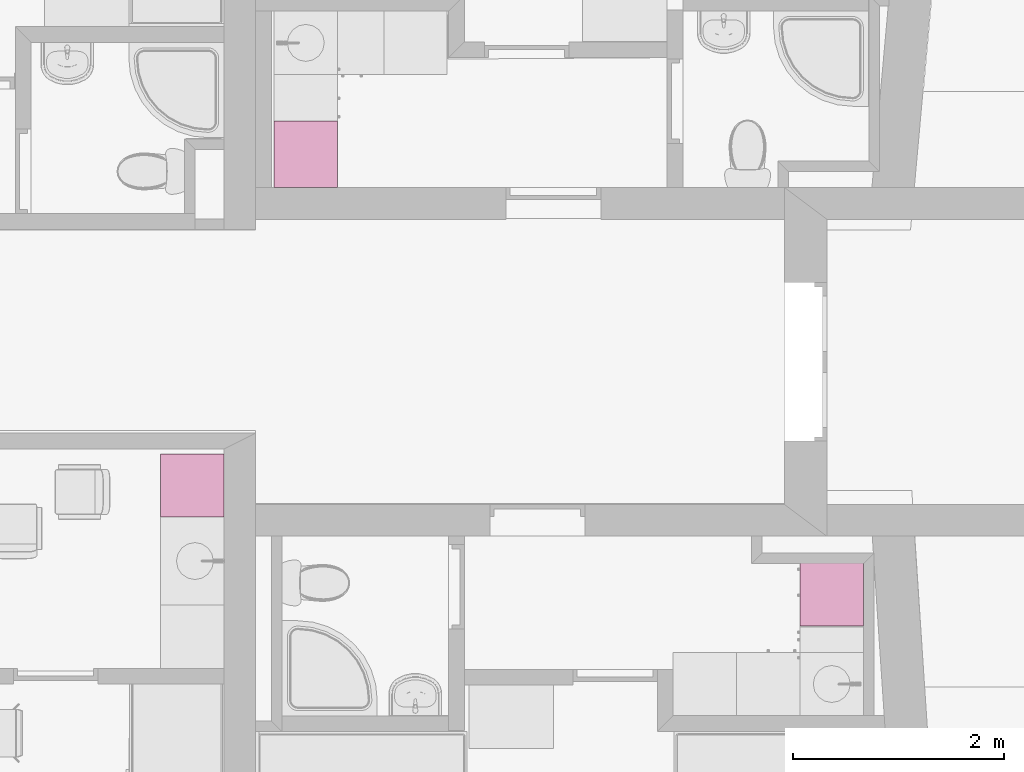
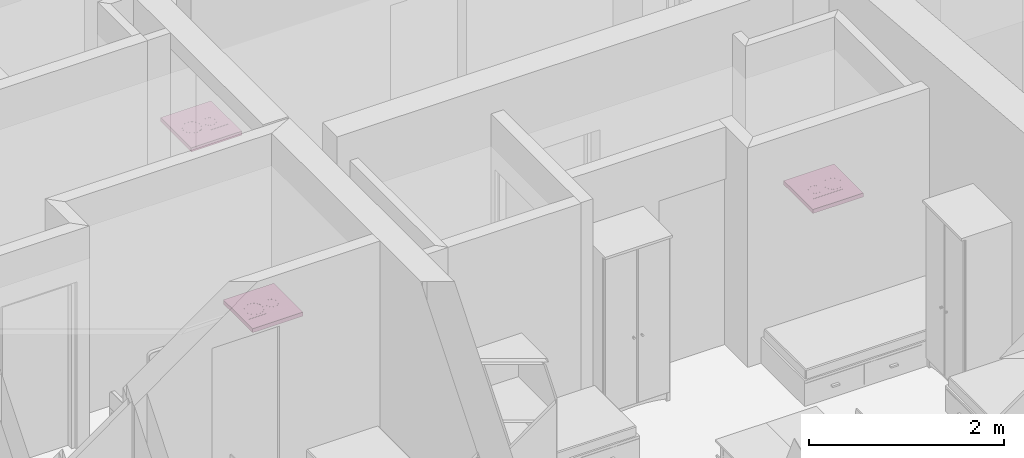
# One storey, part 168 of 172: 3 furnishings.
"""IFC2X3 building model written with IfcOpenShell, lengths in millimetres."""

from ifc_helpers import new_model, entity, si_unit, converted_unit, money_unit, direction, frame, origin_with_axes, place, context, subcontext, project, spatial, faceted_brep, source, transform, mapped, material, material_list, type_object, element, save


model = new_model("IFC2X3")

# Units and contexts
model_context = context("Model", 3, precision=1e-05, world=origin_with_axes(), true_north=direction((0.0, 1.0)))
body_context = subcontext(model_context, "Body", "Model", "MODEL_VIEW")
ifc_project = project(units=[si_unit("LENGTHUNIT", "METRE", prefix="MILLI"), si_unit("AREAUNIT", "SQUARE_METRE"), si_unit("VOLUMEUNIT", "CUBIC_METRE"), converted_unit("PLANEANGLEUNIT", "DEGREE", entity("IfcPlaneAngleMeasure", 0.0174532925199), si_unit("PLANEANGLEUNIT", "RADIAN"), dimensions=[0, 0, 0, 0, 0, 0, 0]), si_unit("SOLIDANGLEUNIT", "STERADIAN"), money_unit("USD"), converted_unit("TIMEUNIT", "Year", entity("IfcTimeMeasure", 31556926.0), si_unit("TIMEUNIT", "SECOND"), dimensions=[0, 0, 0, 0, 0, 0, 0]), si_unit("MASSUNIT", "GRAM"), si_unit("THERMODYNAMICTEMPERATUREUNIT", "DEGREE_CELSIUS"), si_unit("LUMINOUSINTENSITYUNIT", "LUMEN")], contexts=[model_context])

# Site, building, storey
site_placement = place(None, origin_with_axes())
site = spatial("IfcSite", under=ifc_project, at=site_placement, Name="Site", CompositionType="ELEMENT")
building_placement = place(site_placement, origin_with_axes())
building = spatial("IfcBuilding", under=site, at=building_placement, Name="Building", CompositionType="ELEMENT")
storey_placement = place(building_placement, frame((0.0, 0.0, 3200.0), z_axis=(0.0, 0.0, 1.0), x_axis=(1.0, 0.0, 0.0)))
storey = spatial("IfcBuildingStorey", under=building, at=storey_placement, Name="3KORRUS", CompositionType="ELEMENT", Elevation=3200.0)

# Furnishings
ifc_material = material(Name="Background")
ifc_material_list = material_list([ifc_material])
furnishing_element_type = type_object("IfcFurnishingElementType", Name="Built-in Cooktops 19")
shared_shape_1 = source(origin_with_axes(), body_context, "Body", "Brep", [
    faceted_brep([(0.0, 0.0, 850.0), (0.0, 0.0, 900.0), (-629.977, 0.0, 900.0), (-629.977, 0.0, 850.0), (0.0, 600.0, 850.0), (0.0, 600.0, 900.0), (-629.977, 600.0, 900.0), (-629.977, 600.0, 850.0)], [[[0, 1, 2, 3]], [[4, 5, 1, 0]], [[1, 5, 6, 2]], [[3, 2, 6, 7]], [[0, 3, 7, 4]], [[7, 6, 5, 4]]]),
    faceted_brep([(-179.989, 55.0, 900.0), (-449.989, 55.0, 900.0), (-449.989, 545.0, 900.0), (-179.989, 545.0, 900.0), (-179.989, 55.0, 900.8), (-449.989, 55.0, 900.8), (-449.989, 545.0, 900.8), (-179.989, 545.0, 900.8), (-186.794, 61.806, 902.0), (-443.183, 61.806, 902.0), (-443.183, 538.194, 902.0), (-186.794, 538.194, 902.0)], [[[0, 1, 2, 3]], [[0, 4, 5, 1]], [[1, 5, 6, 2]], [[2, 6, 7, 3]], [[3, 7, 4, 0]], [[4, 8, 9, 5]], [[5, 9, 10, 6]], [[6, 10, 11, 7]], [[7, 11, 8, 4]], [[10, 9, 8, 11]]]),
    faceted_brep([(-209.989, 409.27, 902.0), (-209.989, 409.27, 903.0), (-224.056, 356.77, 903.0), (-224.056, 356.77, 902.0), (-224.056, 461.77, 902.0), (-224.056, 461.77, 903.0), (-262.489, 500.203, 903.0), (-314.989, 514.27, 903.0), (-367.489, 500.203, 903.0), (-405.921, 461.77, 903.0), (-419.989, 409.27, 903.0), (-405.921, 356.77, 903.0), (-367.489, 318.337, 903.0), (-314.989, 304.27, 903.0), (-262.489, 318.337, 903.0), (-214.989, 409.27, 903.0), (-228.386, 359.27, 903.0), (-264.989, 322.667, 903.0), (-314.989, 309.27, 903.0), (-364.989, 322.667, 903.0), (-401.591, 359.27, 903.0), (-414.989, 409.27, 903.0), (-401.591, 459.27, 903.0), (-364.989, 495.873, 903.0), (-314.989, 509.27, 903.0), (-264.989, 495.873, 903.0), (-228.386, 459.27, 903.0), (-262.489, 318.337, 902.0), (-314.989, 304.27, 902.0), (-367.489, 318.337, 902.0), (-405.921, 356.77, 902.0), (-419.989, 409.27, 902.0), (-405.921, 461.77, 902.0), (-367.489, 500.203, 902.0), (-314.989, 514.27, 902.0), (-262.489, 500.203, 902.0), (-214.989, 409.27, 902.0), (-228.386, 459.27, 902.0), (-264.989, 495.873, 902.0), (-314.989, 509.27, 902.0), (-364.989, 495.873, 902.0), (-401.591, 459.27, 902.0), (-414.989, 409.27, 902.0), (-401.591, 359.27, 902.0), (-364.989, 322.667, 902.0), (-314.989, 309.27, 902.0), (-264.989, 322.667, 902.0), (-228.386, 359.27, 902.0)], [[[0, 1, 2, 3]], [[4, 5, 1, 0]], [[1, 5, 6, 7, 8, 9, 10, 11, 12, 13, 14, 2], [15, 16, 17, 18, 19, 20, 21, 22, 23, 24, 25, 26]], [[3, 2, 14, 27]], [[0, 3, 27, 28, 29, 30, 31, 32, 33, 34, 35, 4], [36, 37, 38, 39, 40, 41, 42, 43, 44, 45, 46, 47]], [[35, 6, 5, 4]], [[34, 7, 6, 35]], [[33, 8, 7, 34]], [[32, 9, 8, 33]], [[31, 10, 9, 32]], [[30, 11, 10, 31]], [[29, 12, 11, 30]], [[28, 13, 12, 29]], [[27, 14, 13, 28]], [[47, 16, 15, 36]], [[46, 17, 16, 47]], [[45, 18, 17, 46]], [[44, 19, 18, 45]], [[43, 20, 19, 44]], [[42, 21, 20, 43]], [[41, 22, 21, 42]], [[40, 23, 22, 41]], [[39, 24, 23, 40]], [[38, 25, 24, 39]], [[37, 26, 25, 38]], [[36, 15, 26, 37]]]),
    faceted_brep([(-242.489, 200.53, 902.0), (-242.489, 200.53, 903.0), (-252.202, 164.28, 903.0), (-252.202, 164.28, 902.0), (-252.202, 236.78, 902.0), (-252.202, 236.78, 903.0), (-278.739, 263.317, 903.0), (-314.989, 273.03, 903.0), (-351.239, 263.317, 903.0), (-377.775, 236.78, 903.0), (-387.489, 200.53, 903.0), (-377.775, 164.28, 903.0), (-351.239, 137.743, 903.0), (-314.989, 128.03, 903.0), (-278.739, 137.743, 903.0), (-247.489, 200.53, 903.0), (-256.532, 166.78, 903.0), (-281.239, 142.073, 903.0), (-314.989, 133.03, 903.0), (-348.739, 142.073, 903.0), (-373.445, 166.78, 903.0), (-382.489, 200.53, 903.0), (-373.445, 234.28, 903.0), (-348.739, 258.987, 903.0), (-314.989, 268.03, 903.0), (-281.239, 258.987, 903.0), (-256.532, 234.28, 903.0), (-278.739, 137.743, 902.0), (-314.989, 128.03, 902.0), (-351.239, 137.743, 902.0), (-377.775, 164.28, 902.0), (-387.489, 200.53, 902.0), (-377.775, 236.78, 902.0), (-351.239, 263.317, 902.0), (-314.989, 273.03, 902.0), (-278.739, 263.317, 902.0), (-247.489, 200.53, 902.0), (-256.532, 234.28, 902.0), (-281.239, 258.987, 902.0), (-314.989, 268.03, 902.0), (-348.739, 258.987, 902.0), (-373.445, 234.28, 902.0), (-382.489, 200.53, 902.0), (-373.445, 166.78, 902.0), (-348.739, 142.073, 902.0), (-314.989, 133.03, 902.0), (-281.239, 142.073, 902.0), (-256.532, 166.78, 902.0)], [[[0, 1, 2, 3]], [[4, 5, 1, 0]], [[1, 5, 6, 7, 8, 9, 10, 11, 12, 13, 14, 2], [15, 16, 17, 18, 19, 20, 21, 22, 23, 24, 25, 26]], [[3, 2, 14, 27]], [[0, 3, 27, 28, 29, 30, 31, 32, 33, 34, 35, 4], [36, 37, 38, 39, 40, 41, 42, 43, 44, 45, 46, 47]], [[35, 6, 5, 4]], [[34, 7, 6, 35]], [[33, 8, 7, 34]], [[32, 9, 8, 33]], [[31, 10, 9, 32]], [[30, 11, 10, 31]], [[29, 12, 11, 30]], [[28, 13, 12, 29]], [[27, 14, 13, 28]], [[47, 16, 15, 36]], [[46, 17, 16, 47]], [[45, 18, 17, 46]], [[44, 19, 18, 45]], [[43, 20, 19, 44]], [[42, 21, 20, 43]], [[41, 22, 21, 42]], [[40, 23, 22, 41]], [[39, 24, 23, 40]], [[38, 25, 24, 39]], [[37, 26, 25, 38]], [[36, 15, 26, 37]]]),
])
furnishing_1_placement = place(storey_placement, frame((12784.2564771, -10109.6268342, 0.0), z_axis=(0.0, 0.0, 1.0), x_axis=(0.0, 1.0, 0.0)))
element("IfcFurnishingElement", 1, at=furnishing_1_placement, inside=storey, type_object=furnishing_element_type, material=ifc_material_list, Name="FU - 007", context=body_context, shape_type="MappedRepresentation", body=[
    mapped(shared_shape_1, transform((0.0, 0.0, 0.0))),
])
shared_shape_2 = source(origin_with_axes(), body_context, "Body", "Brep", [
    faceted_brep([(0.0, 0.0, 850.0), (600.0, 0.0, 850.0), (600.0, 0.0, 900.0), (0.0, 0.0, 900.0), (0.0, 600.0, 850.0), (600.0, 600.0, 850.0), (600.0, 600.0, 900.0), (0.0, 600.0, 900.0)], [[[0, 1, 2, 3]], [[0, 4, 5, 1]], [[1, 5, 6, 2]], [[3, 2, 6, 7]], [[4, 0, 3, 7]], [[5, 4, 7, 6]]]),
    faceted_brep([(165.0, 55.0, 900.0), (165.0, 545.0, 900.0), (435.0, 545.0, 900.0), (435.0, 55.0, 900.0), (165.0, 55.0, 900.8), (165.0, 545.0, 900.8), (435.0, 545.0, 900.8), (435.0, 55.0, 900.8), (171.806, 61.806, 902.0), (171.806, 538.194, 902.0), (428.194, 538.194, 902.0), (428.194, 61.806, 902.0)], [[[0, 1, 2, 3]], [[1, 0, 4, 5]], [[2, 1, 5, 6]], [[3, 2, 6, 7]], [[0, 3, 7, 4]], [[5, 4, 8, 9]], [[6, 5, 9, 10]], [[7, 6, 10, 11]], [[4, 7, 11, 8]], [[10, 9, 8, 11]]]),
    faceted_brep([(195.0, 409.27, 902.0), (209.067, 356.77, 902.0), (209.067, 356.77, 903.0), (195.0, 409.27, 903.0), (209.067, 461.77, 902.0), (247.5, 500.203, 902.0), (300.0, 514.27, 902.0), (352.5, 500.203, 902.0), (390.933, 461.77, 902.0), (405.0, 409.27, 902.0), (390.933, 356.77, 902.0), (352.5, 318.337, 902.0), (300.0, 304.27, 902.0), (247.5, 318.337, 902.0), (200.0, 409.27, 902.0), (213.397, 359.27, 902.0), (250.0, 322.667, 902.0), (300.0, 309.27, 902.0), (350.0, 322.667, 902.0), (386.603, 359.27, 902.0), (400.0, 409.27, 902.0), (386.603, 459.27, 902.0), (350.0, 495.873, 902.0), (300.0, 509.27, 902.0), (250.0, 495.873, 902.0), (213.397, 459.27, 902.0), (247.5, 318.337, 903.0), (300.0, 304.27, 903.0), (352.5, 318.337, 903.0), (390.933, 356.77, 903.0), (405.0, 409.27, 903.0), (390.933, 461.77, 903.0), (352.5, 500.203, 903.0), (300.0, 514.27, 903.0), (247.5, 500.203, 903.0), (209.067, 461.77, 903.0), (200.0, 409.27, 903.0), (213.397, 459.27, 903.0), (250.0, 495.873, 903.0), (300.0, 509.27, 903.0), (350.0, 495.873, 903.0), (386.603, 459.27, 903.0), (400.0, 409.27, 903.0), (386.603, 359.27, 903.0), (350.0, 322.667, 903.0), (300.0, 309.27, 903.0), (250.0, 322.667, 903.0), (213.397, 359.27, 903.0)], [[[0, 1, 2, 3]], [[0, 4, 5, 6, 7, 8, 9, 10, 11, 12, 13, 1], [14, 15, 16, 17, 18, 19, 20, 21, 22, 23, 24, 25]], [[1, 13, 26, 2]], [[3, 2, 26, 27, 28, 29, 30, 31, 32, 33, 34, 35], [36, 37, 38, 39, 40, 41, 42, 43, 44, 45, 46, 47]], [[4, 0, 3, 35]], [[5, 4, 35, 34]], [[6, 5, 34, 33]], [[7, 6, 33, 32]], [[8, 7, 32, 31]], [[9, 8, 31, 30]], [[10, 9, 30, 29]], [[11, 10, 29, 28]], [[12, 11, 28, 27]], [[13, 12, 27, 26]], [[15, 14, 36, 47]], [[16, 15, 47, 46]], [[17, 16, 46, 45]], [[18, 17, 45, 44]], [[19, 18, 44, 43]], [[20, 19, 43, 42]], [[21, 20, 42, 41]], [[22, 21, 41, 40]], [[23, 22, 40, 39]], [[24, 23, 39, 38]], [[25, 24, 38, 37]], [[14, 25, 37, 36]]]),
    faceted_brep([(227.5, 200.53, 902.0), (237.213, 164.28, 902.0), (237.213, 164.28, 903.0), (227.5, 200.53, 903.0), (237.213, 236.78, 902.0), (263.75, 263.317, 902.0), (300.0, 273.03, 902.0), (336.25, 263.317, 902.0), (362.787, 236.78, 902.0), (372.5, 200.53, 902.0), (362.787, 164.28, 902.0), (336.25, 137.743, 902.0), (300.0, 128.03, 902.0), (263.75, 137.743, 902.0), (232.5, 200.53, 902.0), (241.543, 166.78, 902.0), (266.25, 142.073, 902.0), (300.0, 133.03, 902.0), (333.75, 142.073, 902.0), (358.457, 166.78, 902.0), (367.5, 200.53, 902.0), (358.457, 234.28, 902.0), (333.75, 258.987, 902.0), (300.0, 268.03, 902.0), (266.25, 258.987, 902.0), (241.543, 234.28, 902.0), (263.75, 137.743, 903.0), (300.0, 128.03, 903.0), (336.25, 137.743, 903.0), (362.787, 164.28, 903.0), (372.5, 200.53, 903.0), (362.787, 236.78, 903.0), (336.25, 263.317, 903.0), (300.0, 273.03, 903.0), (263.75, 263.317, 903.0), (237.213, 236.78, 903.0), (232.5, 200.53, 903.0), (241.543, 234.28, 903.0), (266.25, 258.987, 903.0), (300.0, 268.03, 903.0), (333.75, 258.987, 903.0), (358.457, 234.28, 903.0), (367.5, 200.53, 903.0), (358.457, 166.78, 903.0), (333.75, 142.073, 903.0), (300.0, 133.03, 903.0), (266.25, 142.073, 903.0), (241.543, 166.78, 903.0)], [[[0, 1, 2, 3]], [[0, 4, 5, 6, 7, 8, 9, 10, 11, 12, 13, 1], [14, 15, 16, 17, 18, 19, 20, 21, 22, 23, 24, 25]], [[1, 13, 26, 2]], [[3, 2, 26, 27, 28, 29, 30, 31, 32, 33, 34, 35], [36, 37, 38, 39, 40, 41, 42, 43, 44, 45, 46, 47]], [[4, 0, 3, 35]], [[5, 4, 35, 34]], [[6, 5, 34, 33]], [[7, 6, 33, 32]], [[8, 7, 32, 31]], [[9, 8, 31, 30]], [[10, 9, 30, 29]], [[11, 10, 29, 28]], [[12, 11, 28, 27]], [[13, 12, 27, 26]], [[15, 14, 36, 47]], [[16, 15, 47, 46]], [[17, 16, 46, 45]], [[18, 17, 45, 44]], [[19, 18, 44, 43]], [[20, 19, 43, 42]], [[21, 20, 42, 41]], [[22, 21, 41, 40]], [[23, 22, 40, 39]], [[24, 23, 39, 38]], [[25, 24, 38, 37]], [[14, 25, 37, 36]]]),
])
furnishing_2_placement = place(storey_placement, frame((11709.7032967, -13859.2398994, 0.0), z_axis=(0.0, 0.0, 1.0), x_axis=(0.0, 1.0, 0.0)))
element("IfcFurnishingElement", 2, at=furnishing_2_placement, inside=storey, type_object=furnishing_element_type, material=ifc_material_list, Name="FU - 007", context=body_context, shape_type="MappedRepresentation", body=[
    mapped(shared_shape_2, transform((0.0, 0.0, 0.0))),
])
shared_shape_3 = source(origin_with_axes(), body_context, "Body", "Brep", [
    faceted_brep([(0.0, 0.0, 850.0), (0.0, 0.0, 900.0), (-600.0, 0.0, 900.0), (-600.0, 0.0, 850.0), (0.0, 600.0, 850.0), (0.0, 600.0, 900.0), (-600.0, 600.0, 900.0), (-600.0, 600.0, 850.0)], [[[0, 1, 2, 3]], [[4, 5, 1, 0]], [[1, 5, 6, 2]], [[3, 2, 6, 7]], [[0, 3, 7, 4]], [[7, 6, 5, 4]]]),
    faceted_brep([(-165.0, 55.0, 900.0), (-435.0, 55.0, 900.0), (-435.0, 545.0, 900.0), (-165.0, 545.0, 900.0), (-165.0, 55.0, 900.8), (-435.0, 55.0, 900.8), (-435.0, 545.0, 900.8), (-165.0, 545.0, 900.8), (-171.806, 61.806, 902.0), (-428.194, 61.806, 902.0), (-428.194, 538.194, 902.0), (-171.806, 538.194, 902.0)], [[[0, 1, 2, 3]], [[0, 4, 5, 1]], [[1, 5, 6, 2]], [[2, 6, 7, 3]], [[3, 7, 4, 0]], [[4, 8, 9, 5]], [[5, 9, 10, 6]], [[6, 10, 11, 7]], [[7, 11, 8, 4]], [[10, 9, 8, 11]]]),
    faceted_brep([(-195.0, 409.27, 902.0), (-195.0, 409.27, 903.0), (-209.067, 356.77, 903.0), (-209.067, 356.77, 902.0), (-209.067, 461.77, 902.0), (-209.067, 461.77, 903.0), (-247.5, 500.203, 903.0), (-300.0, 514.27, 903.0), (-352.5, 500.203, 903.0), (-390.933, 461.77, 903.0), (-405.0, 409.27, 903.0), (-390.933, 356.77, 903.0), (-352.5, 318.337, 903.0), (-300.0, 304.27, 903.0), (-247.5, 318.337, 903.0), (-200.0, 409.27, 903.0), (-213.397, 359.27, 903.0), (-250.0, 322.667, 903.0), (-300.0, 309.27, 903.0), (-350.0, 322.667, 903.0), (-386.603, 359.27, 903.0), (-400.0, 409.27, 903.0), (-386.603, 459.27, 903.0), (-350.0, 495.873, 903.0), (-300.0, 509.27, 903.0), (-250.0, 495.873, 903.0), (-213.397, 459.27, 903.0), (-247.5, 318.337, 902.0), (-300.0, 304.27, 902.0), (-352.5, 318.337, 902.0), (-390.933, 356.77, 902.0), (-405.0, 409.27, 902.0), (-390.933, 461.77, 902.0), (-352.5, 500.203, 902.0), (-300.0, 514.27, 902.0), (-247.5, 500.203, 902.0), (-200.0, 409.27, 902.0), (-213.397, 459.27, 902.0), (-250.0, 495.873, 902.0), (-300.0, 509.27, 902.0), (-350.0, 495.873, 902.0), (-386.603, 459.27, 902.0), (-400.0, 409.27, 902.0), (-386.603, 359.27, 902.0), (-350.0, 322.667, 902.0), (-300.0, 309.27, 902.0), (-250.0, 322.667, 902.0), (-213.397, 359.27, 902.0)], [[[0, 1, 2, 3]], [[4, 5, 1, 0]], [[1, 5, 6, 7, 8, 9, 10, 11, 12, 13, 14, 2], [15, 16, 17, 18, 19, 20, 21, 22, 23, 24, 25, 26]], [[3, 2, 14, 27]], [[0, 3, 27, 28, 29, 30, 31, 32, 33, 34, 35, 4], [36, 37, 38, 39, 40, 41, 42, 43, 44, 45, 46, 47]], [[35, 6, 5, 4]], [[34, 7, 6, 35]], [[33, 8, 7, 34]], [[32, 9, 8, 33]], [[31, 10, 9, 32]], [[30, 11, 10, 31]], [[29, 12, 11, 30]], [[28, 13, 12, 29]], [[27, 14, 13, 28]], [[47, 16, 15, 36]], [[46, 17, 16, 47]], [[45, 18, 17, 46]], [[44, 19, 18, 45]], [[43, 20, 19, 44]], [[42, 21, 20, 43]], [[41, 22, 21, 42]], [[40, 23, 22, 41]], [[39, 24, 23, 40]], [[38, 25, 24, 39]], [[37, 26, 25, 38]], [[36, 15, 26, 37]]]),
    faceted_brep([(-227.5, 200.53, 902.0), (-227.5, 200.53, 903.0), (-237.213, 164.28, 903.0), (-237.213, 164.28, 902.0), (-237.213, 236.78, 902.0), (-237.213, 236.78, 903.0), (-263.75, 263.317, 903.0), (-300.0, 273.03, 903.0), (-336.25, 263.317, 903.0), (-362.787, 236.78, 903.0), (-372.5, 200.53, 903.0), (-362.787, 164.28, 903.0), (-336.25, 137.743, 903.0), (-300.0, 128.03, 903.0), (-263.75, 137.743, 903.0), (-232.5, 200.53, 903.0), (-241.543, 166.78, 903.0), (-266.25, 142.073, 903.0), (-300.0, 133.03, 903.0), (-333.75, 142.073, 903.0), (-358.457, 166.78, 903.0), (-367.5, 200.53, 903.0), (-358.457, 234.28, 903.0), (-333.75, 258.987, 903.0), (-300.0, 268.03, 903.0), (-266.25, 258.987, 903.0), (-241.543, 234.28, 903.0), (-263.75, 137.743, 902.0), (-300.0, 128.03, 902.0), (-336.25, 137.743, 902.0), (-362.787, 164.28, 902.0), (-372.5, 200.53, 902.0), (-362.787, 236.78, 902.0), (-336.25, 263.317, 902.0), (-300.0, 273.03, 902.0), (-263.75, 263.317, 902.0), (-232.5, 200.53, 902.0), (-241.543, 234.28, 902.0), (-266.25, 258.987, 902.0), (-300.0, 268.03, 902.0), (-333.75, 258.987, 902.0), (-358.457, 234.28, 902.0), (-367.5, 200.53, 902.0), (-358.457, 166.78, 902.0), (-333.75, 142.073, 902.0), (-300.0, 133.03, 902.0), (-266.25, 142.073, 902.0), (-241.543, 166.78, 902.0)], [[[0, 1, 2, 3]], [[4, 5, 1, 0]], [[1, 5, 6, 7, 8, 9, 10, 11, 12, 13, 14, 2], [15, 16, 17, 18, 19, 20, 21, 22, 23, 24, 25, 26]], [[3, 2, 14, 27]], [[0, 3, 27, 28, 29, 30, 31, 32, 33, 34, 35, 4], [36, 37, 38, 39, 40, 41, 42, 43, 44, 45, 46, 47]], [[35, 6, 5, 4]], [[34, 7, 6, 35]], [[33, 8, 7, 34]], [[32, 9, 8, 33]], [[31, 10, 9, 32]], [[30, 11, 10, 31]], [[29, 12, 11, 30]], [[28, 13, 12, 29]], [[27, 14, 13, 28]], [[47, 16, 15, 36]], [[46, 17, 16, 47]], [[45, 18, 17, 46]], [[44, 19, 18, 45]], [[43, 20, 19, 44]], [[42, 21, 20, 43]], [[41, 22, 21, 42]], [[40, 23, 22, 41]], [[39, 24, 23, 40]], [[38, 25, 24, 39]], [[37, 26, 25, 38]], [[36, 15, 26, 37]]]),
])
furnishing_3_placement = place(storey_placement, frame((17161.5480058, -14889.2398994, 0.0), z_axis=(0.0, 0.0, 1.0), x_axis=(0.0, -1.0, 0.0)))
element("IfcFurnishingElement", 3, at=furnishing_3_placement, inside=storey, type_object=furnishing_element_type, material=ifc_material_list, Name="FU - 007", context=body_context, shape_type="MappedRepresentation", body=[
    mapped(shared_shape_3, transform((0.0, 0.0, 0.0))),
])

save(model, "model.ifc")
